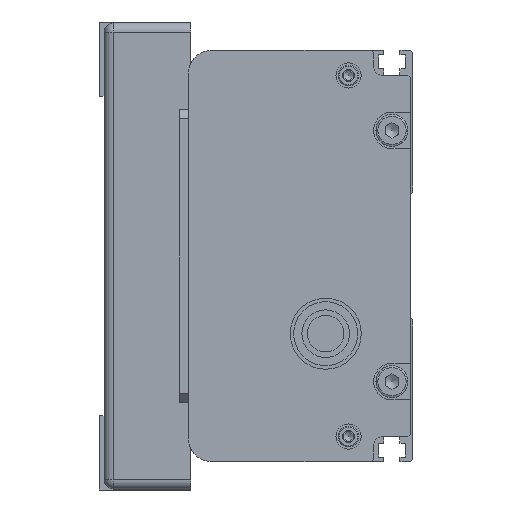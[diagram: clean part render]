
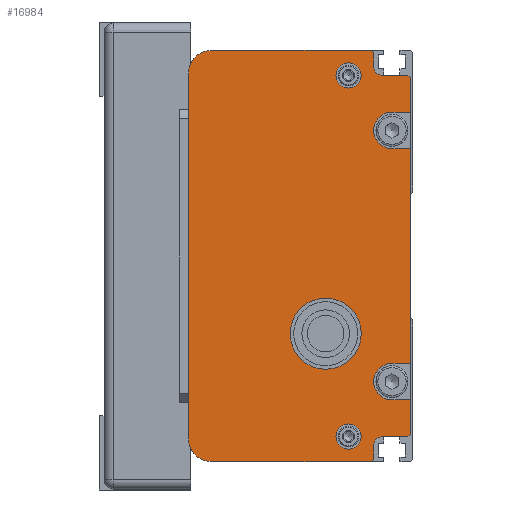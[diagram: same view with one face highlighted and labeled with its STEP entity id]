
A CAD part, left-side view. The second image highlights one B-rep face of the part: STEP entity #16984.
In plain terms, the highlighted planar face has unit normal (-1, 0, 0) as drawn and (0, 0, -1) by its records, which use the part's own axes.
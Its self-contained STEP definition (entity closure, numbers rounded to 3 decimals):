
#1080=FACE_BOUND('',#2490,.T.);
#1081=FACE_BOUND('',#2491,.T.);
#1082=FACE_BOUND('',#2492,.T.);
#1416=FACE_OUTER_BOUND('',#2489,.T.);
#2489=EDGE_LOOP('',(#11801,#11802,#11803,#11804,#11805,#11806,#11807,#11808,
#11809,#11810,#11811,#11812,#11813,#11814,#11815,#11816,#11817,#11818,#11819,
#11820,#11821,#11822,#11823,#11824));
#2490=EDGE_LOOP('',(#11825));
#2491=EDGE_LOOP('',(#11826));
#2492=EDGE_LOOP('',(#11827));
#3783=LINE('',#24613,#5281);
#3809=LINE('',#24680,#5307);
#3811=LINE('',#24685,#5309);
#3812=LINE('',#24687,#5310);
#3813=LINE('',#24690,#5311);
#3814=LINE('',#24692,#5312);
#3815=LINE('',#24694,#5313);
#3816=LINE('',#24698,#5314);
#3817=LINE('',#24700,#5315);
#3818=LINE('',#24702,#5316);
#3819=LINE('',#24706,#5317);
#3820=LINE('',#24708,#5318);
#3821=LINE('',#24710,#5319);
#3822=LINE('',#24712,#5320);
#3823=LINE('',#24716,#5321);
#3824=LINE('',#24718,#5322);
#3825=LINE('',#24719,#5323);
#3826=LINE('',#24720,#5324);
#5281=VECTOR('',#19996,80.);
#5307=VECTOR('',#20048,0.707);
#5309=VECTOR('',#20052,0.707);
#5310=VECTOR('',#20053,3.);
#5311=VECTOR('',#20056,5.5);
#5312=VECTOR('',#20057,7.5);
#5313=VECTOR('',#20058,4.);
#5314=VECTOR('',#20061,4.);
#5315=VECTOR('',#20062,47.);
#5316=VECTOR('',#20063,4.);
#5317=VECTOR('',#20066,4.);
#5318=VECTOR('',#20067,7.5);
#5319=VECTOR('',#20068,0.707);
#5320=VECTOR('',#20069,5.5);
#5321=VECTOR('',#20072,3.);
#5322=VECTOR('',#20073,0.707);
#5323=VECTOR('',#20074,35.);
#5324=VECTOR('',#20075,35.);
#6670=CIRCLE('',#18142,5.);
#6673=CIRCLE('',#18149,5.);
#6675=CIRCLE('',#18155,2.);
#6676=CIRCLE('',#18156,4.);
#6677=CIRCLE('',#18157,4.);
#6678=CIRCLE('',#18158,2.);
#6679=CIRCLE('',#18159,7.769);
#6680=CIRCLE('',#18160,2.75);
#6681=CIRCLE('',#18161,2.75);
#7277=VERTEX_POINT('',#24610);
#7278=VERTEX_POINT('',#24612);
#7279=VERTEX_POINT('',#24616);
#7282=VERTEX_POINT('',#24627);
#7305=VERTEX_POINT('',#24677);
#7306=VERTEX_POINT('',#24679);
#7307=VERTEX_POINT('',#24683);
#7308=VERTEX_POINT('',#24684);
#7309=VERTEX_POINT('',#24686);
#7310=VERTEX_POINT('',#24688);
#7311=VERTEX_POINT('',#24691);
#7312=VERTEX_POINT('',#24693);
#7313=VERTEX_POINT('',#24695);
#7314=VERTEX_POINT('',#24697);
#7315=VERTEX_POINT('',#24699);
#7316=VERTEX_POINT('',#24701);
#7317=VERTEX_POINT('',#24703);
#7318=VERTEX_POINT('',#24705);
#7319=VERTEX_POINT('',#24707);
#7320=VERTEX_POINT('',#24709);
#7321=VERTEX_POINT('',#24711);
#7322=VERTEX_POINT('',#24713);
#7323=VERTEX_POINT('',#24715);
#7324=VERTEX_POINT('',#24717);
#7325=VERTEX_POINT('',#24721);
#7326=VERTEX_POINT('',#24723);
#7327=VERTEX_POINT('',#24725);
#9063=EDGE_CURVE('',#7277,#7278,#3783,.T.);
#9065=EDGE_CURVE('',#7278,#7279,#6670,.T.);
#9070=EDGE_CURVE('',#7282,#7277,#6673,.T.);
#9094=EDGE_CURVE('',#7305,#7306,#3809,.T.);
#9096=EDGE_CURVE('',#7307,#7308,#3811,.T.);
#9097=EDGE_CURVE('',#7307,#7309,#3812,.T.);
#9098=EDGE_CURVE('',#7309,#7310,#6675,.T.);
#9099=EDGE_CURVE('',#7310,#7306,#3813,.T.);
#9100=EDGE_CURVE('',#7311,#7305,#3814,.T.);
#9101=EDGE_CURVE('',#7311,#7312,#3815,.T.);
#9102=EDGE_CURVE('',#7312,#7313,#6676,.T.);
#9103=EDGE_CURVE('',#7313,#7314,#3816,.T.);
#9104=EDGE_CURVE('',#7315,#7314,#3817,.T.);
#9105=EDGE_CURVE('',#7315,#7316,#3818,.T.);
#9106=EDGE_CURVE('',#7316,#7317,#6677,.T.);
#9107=EDGE_CURVE('',#7317,#7318,#3819,.T.);
#9108=EDGE_CURVE('',#7319,#7318,#3820,.T.);
#9109=EDGE_CURVE('',#7320,#7319,#3821,.T.);
#9110=EDGE_CURVE('',#7320,#7321,#3822,.T.);
#9111=EDGE_CURVE('',#7321,#7322,#6678,.T.);
#9112=EDGE_CURVE('',#7322,#7323,#3823,.T.);
#9113=EDGE_CURVE('',#7324,#7323,#3824,.T.);
#9114=EDGE_CURVE('',#7279,#7324,#3825,.T.);
#9115=EDGE_CURVE('',#7308,#7282,#3826,.T.);
#9116=EDGE_CURVE('',#7325,#7325,#6679,.T.);
#9117=EDGE_CURVE('',#7326,#7326,#6680,.T.);
#9118=EDGE_CURVE('',#7327,#7327,#6681,.T.);
#11801=ORIENTED_EDGE('',*,*,#9096,.F.);
#11802=ORIENTED_EDGE('',*,*,#9097,.T.);
#11803=ORIENTED_EDGE('',*,*,#9098,.T.);
#11804=ORIENTED_EDGE('',*,*,#9099,.T.);
#11805=ORIENTED_EDGE('',*,*,#9094,.F.);
#11806=ORIENTED_EDGE('',*,*,#9100,.F.);
#11807=ORIENTED_EDGE('',*,*,#9101,.T.);
#11808=ORIENTED_EDGE('',*,*,#9102,.T.);
#11809=ORIENTED_EDGE('',*,*,#9103,.T.);
#11810=ORIENTED_EDGE('',*,*,#9104,.F.);
#11811=ORIENTED_EDGE('',*,*,#9105,.T.);
#11812=ORIENTED_EDGE('',*,*,#9106,.T.);
#11813=ORIENTED_EDGE('',*,*,#9107,.T.);
#11814=ORIENTED_EDGE('',*,*,#9108,.F.);
#11815=ORIENTED_EDGE('',*,*,#9109,.F.);
#11816=ORIENTED_EDGE('',*,*,#9110,.T.);
#11817=ORIENTED_EDGE('',*,*,#9111,.T.);
#11818=ORIENTED_EDGE('',*,*,#9112,.T.);
#11819=ORIENTED_EDGE('',*,*,#9113,.F.);
#11820=ORIENTED_EDGE('',*,*,#9114,.F.);
#11821=ORIENTED_EDGE('',*,*,#9065,.F.);
#11822=ORIENTED_EDGE('',*,*,#9063,.F.);
#11823=ORIENTED_EDGE('',*,*,#9070,.F.);
#11824=ORIENTED_EDGE('',*,*,#9115,.F.);
#11825=ORIENTED_EDGE('',*,*,#9116,.T.);
#11826=ORIENTED_EDGE('',*,*,#9117,.T.);
#11827=ORIENTED_EDGE('',*,*,#9118,.T.);
#16372=PLANE('',#18154);
#16984=ADVANCED_FACE('',(#1416,#1080,#1081,#1082),#16372,.F.);
#18142=AXIS2_PLACEMENT_3D('',#24617,#20000,#20001);
#18149=AXIS2_PLACEMENT_3D('',#24629,#20016,#20017);
#18154=AXIS2_PLACEMENT_3D('',#24682,#20050,#20051);
#18155=AXIS2_PLACEMENT_3D('',#24689,#20054,#20055);
#18156=AXIS2_PLACEMENT_3D('',#24696,#20059,#20060);
#18157=AXIS2_PLACEMENT_3D('',#24704,#20064,#20065);
#18158=AXIS2_PLACEMENT_3D('',#24714,#20070,#20071);
#18159=AXIS2_PLACEMENT_3D('',#24722,#20076,#20077);
#18160=AXIS2_PLACEMENT_3D('',#24724,#20078,#20079);
#18161=AXIS2_PLACEMENT_3D('',#24726,#20080,#20081);
#19996=DIRECTION('',(-1.,0.,0.));
#20000=DIRECTION('center_axis',(0.,0.,1.));
#20001=DIRECTION('ref_axis',(0.,1.,0.));
#20016=DIRECTION('center_axis',(0.,0.,1.));
#20017=DIRECTION('ref_axis',(1.,0.,0.));
#20048=DIRECTION('',(0.707,0.707,0.));
#20050=DIRECTION('center_axis',(0.,0.,1.));
#20051=DIRECTION('ref_axis',(1.,0.,0.));
#20052=DIRECTION('',(0.707,0.707,0.));
#20053=DIRECTION('',(-1.,0.,0.));
#20054=DIRECTION('center_axis',(0.,0.,1.));
#20055=DIRECTION('ref_axis',(0.,1.,0.));
#20056=DIRECTION('',(0.,-1.,0.));
#20057=DIRECTION('',(1.,0.,0.));
#20058=DIRECTION('',(0.,1.,0.));
#20059=DIRECTION('center_axis',(0.,0.,1.));
#20060=DIRECTION('ref_axis',(-1.,0.,0.));
#20061=DIRECTION('',(0.,-1.,0.));
#20062=DIRECTION('',(1.,0.,0.));
#20063=DIRECTION('',(0.,1.,0.));
#20064=DIRECTION('center_axis',(0.,0.,1.));
#20065=DIRECTION('ref_axis',(-1.,0.,0.));
#20066=DIRECTION('',(0.,-1.,0.));
#20067=DIRECTION('',(1.,0.,0.));
#20068=DIRECTION('',(0.707,-0.707,0.));
#20069=DIRECTION('',(0.,1.,0.));
#20070=DIRECTION('center_axis',(0.,0.,1.));
#20071=DIRECTION('ref_axis',(-1.,0.,0.));
#20072=DIRECTION('',(-1.,0.,0.));
#20073=DIRECTION('',(0.707,-0.707,0.));
#20074=DIRECTION('',(0.,-1.,0.));
#20075=DIRECTION('',(0.,1.,0.));
#20076=DIRECTION('center_axis',(0.,0.,1.));
#20077=DIRECTION('ref_axis',(0.766,-0.643,0.));
#20078=DIRECTION('center_axis',(0.,0.,1.));
#20079=DIRECTION('ref_axis',(-1.,0.,0.));
#20080=DIRECTION('center_axis',(0.,0.,1.));
#20081=DIRECTION('ref_axis',(-1.,0.,0.));
#24610=CARTESIAN_POINT('',(37.988,51.846,-647.249));
#24612=CARTESIAN_POINT('',(-42.012,51.846,-647.249));
#24613=CARTESIAN_POINT('',(37.988,51.846,-647.249));
#24616=CARTESIAN_POINT('',(-47.012,46.846,-647.249));
#24617=CARTESIAN_POINT('Origin',(-42.012,46.846,-647.249));
#24627=CARTESIAN_POINT('',(42.988,46.846,-647.249));
#24629=CARTESIAN_POINT('Origin',(37.988,46.846,-647.249));
#24677=CARTESIAN_POINT('',(36.988,3.346,-647.249));
#24679=CARTESIAN_POINT('',(37.488,3.846,-647.249));
#24680=CARTESIAN_POINT('',(36.988,3.346,-647.249));
#24682=CARTESIAN_POINT('Origin',(-2.012,27.249,-647.249));
#24683=CARTESIAN_POINT('',(42.488,11.346,-647.249));
#24684=CARTESIAN_POINT('',(42.988,11.846,-647.249));
#24685=CARTESIAN_POINT('',(42.488,11.346,-647.249));
#24686=CARTESIAN_POINT('',(39.488,11.346,-647.249));
#24687=CARTESIAN_POINT('',(42.488,11.346,-647.249));
#24688=CARTESIAN_POINT('',(37.488,9.346,-647.249));
#24689=CARTESIAN_POINT('Origin',(39.488,9.346,-647.249));
#24690=CARTESIAN_POINT('',(37.488,9.346,-647.249));
#24691=CARTESIAN_POINT('',(29.488,3.346,-647.249));
#24692=CARTESIAN_POINT('',(29.488,3.346,-647.249));
#24693=CARTESIAN_POINT('',(29.488,7.346,-647.249));
#24694=CARTESIAN_POINT('',(29.488,3.346,-647.249));
#24695=CARTESIAN_POINT('',(21.488,7.346,-647.249));
#24696=CARTESIAN_POINT('Origin',(25.488,7.346,-647.249));
#24697=CARTESIAN_POINT('',(21.488,3.346,-647.249));
#24698=CARTESIAN_POINT('',(21.488,7.346,-647.249));
#24699=CARTESIAN_POINT('',(-25.512,3.346,-647.249));
#24700=CARTESIAN_POINT('',(-25.512,3.346,-647.249));
#24701=CARTESIAN_POINT('',(-25.512,7.346,-647.249));
#24702=CARTESIAN_POINT('',(-25.512,3.346,-647.249));
#24703=CARTESIAN_POINT('',(-33.512,7.346,-647.249));
#24704=CARTESIAN_POINT('Origin',(-29.512,7.346,-647.249));
#24705=CARTESIAN_POINT('',(-33.512,3.346,-647.249));
#24706=CARTESIAN_POINT('',(-33.512,7.346,-647.249));
#24707=CARTESIAN_POINT('',(-41.012,3.346,-647.249));
#24708=CARTESIAN_POINT('',(-41.012,3.346,-647.249));
#24709=CARTESIAN_POINT('',(-41.512,3.846,-647.249));
#24710=CARTESIAN_POINT('',(-41.512,3.846,-647.249));
#24711=CARTESIAN_POINT('',(-41.512,9.346,-647.249));
#24712=CARTESIAN_POINT('',(-41.512,3.846,-647.249));
#24713=CARTESIAN_POINT('',(-43.512,11.346,-647.249));
#24714=CARTESIAN_POINT('Origin',(-43.512,9.346,-647.249));
#24715=CARTESIAN_POINT('',(-46.512,11.346,-647.249));
#24716=CARTESIAN_POINT('',(-43.512,11.346,-647.249));
#24717=CARTESIAN_POINT('',(-47.012,11.846,-647.249));
#24718=CARTESIAN_POINT('',(-47.012,11.846,-647.249));
#24719=CARTESIAN_POINT('',(-47.012,46.846,-647.249));
#24720=CARTESIAN_POINT('',(42.988,11.846,-647.249));
#24721=CARTESIAN_POINT('',(20.939,16.853,-647.249));
#24722=CARTESIAN_POINT('Origin',(14.988,21.846,-647.249));
#24723=CARTESIAN_POINT('',(34.738,16.846,-647.249));
#24724=CARTESIAN_POINT('Origin',(37.488,16.846,-647.249));
#24725=CARTESIAN_POINT('',(-44.262,16.846,-647.249));
#24726=CARTESIAN_POINT('Origin',(-41.512,16.846,-647.249));
